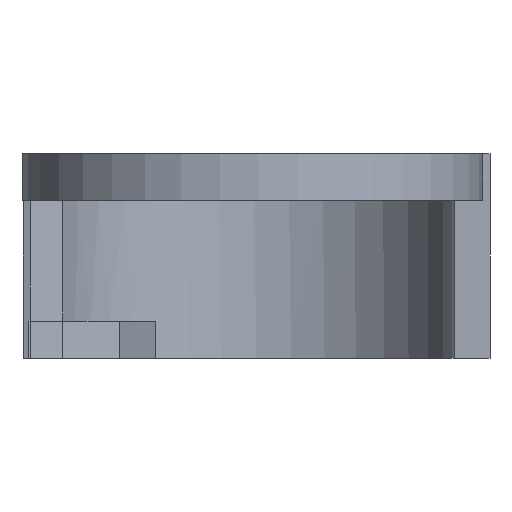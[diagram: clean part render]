
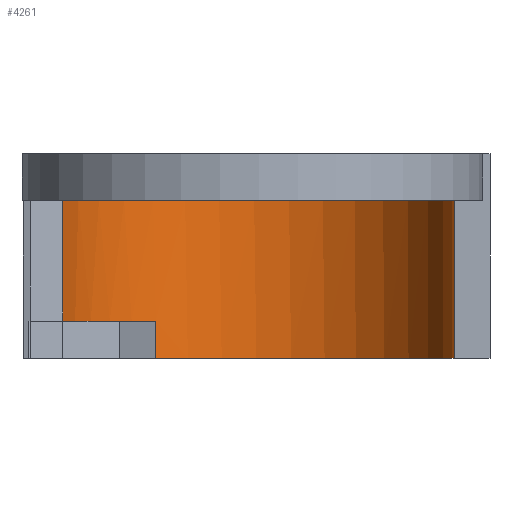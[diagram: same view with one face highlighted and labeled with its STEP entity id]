
A CAD part, front view. The second image highlights one B-rep face of the part: STEP entity #4261.
In plain terms, the highlighted cylindrical face has radius 5.45 mm (diameter 10.9 mm), a partial arc.
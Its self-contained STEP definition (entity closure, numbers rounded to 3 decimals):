
#1710 = PLANE('',#1711);
#1711 = AXIS2_PLACEMENT_3D('',#1712,#1713,#1714);
#1712 = CARTESIAN_POINT('',(0.,0.,-4.5));
#1713 = DIRECTION('',(0.,-1.,0.));
#1714 = DIRECTION('',(1.,0.,0.));
#1739 = PLANE('',#1740);
#1740 = AXIS2_PLACEMENT_3D('',#1741,#1742,#1743);
#1741 = CARTESIAN_POINT('',(0.,0.,-4.5));
#1742 = DIRECTION('',(0.,0.,1.));
#1743 = DIRECTION('',(1.,0.,0.));
#2202 = PLANE('',#2203);
#2203 = AXIS2_PLACEMENT_3D('',#2204,#2205,#2206);
#2204 = CARTESIAN_POINT('',(-7.571,1.268,-5.));
#2205 = DIRECTION('',(-0.267,0.964,0.));
#2206 = DIRECTION('',(0.,0.,1.));
#3151 = VERTEX_POINT('',#3152);
#3152 = CARTESIAN_POINT('',(5.45,0.,-4.5));
#3198 = VERTEX_POINT('',#3199);
#3199 = CARTESIAN_POINT('',(-2.588,4.797,-4.5));
#3220 = EDGE_CURVE('',#3151,#3198,#3221,.T.);
#3221 = SURFACE_CURVE('',#3222,(#3227,#3234),.PCURVE_S1.);
#3222 = CIRCLE('',#3223,5.45);
#3223 = AXIS2_PLACEMENT_3D('',#3224,#3225,#3226);
#3224 = CARTESIAN_POINT('',(0.,0.,-4.5));
#3225 = DIRECTION('',(0.,0.,1.));
#3226 = DIRECTION('',(1.,0.,0.));
#3227 = PCURVE('',#1739,#3228);
#3228 = DEFINITIONAL_REPRESENTATION('',(#3229),#3233);
#3229 = CIRCLE('',#3230,5.45);
#3230 = AXIS2_PLACEMENT_2D('',#3231,#3232);
#3231 = CARTESIAN_POINT('',(0.,0.));
#3232 = DIRECTION('',(1.,0.));
#3233 = ( GEOMETRIC_REPRESENTATION_CONTEXT(2) 
PARAMETRIC_REPRESENTATION_CONTEXT() REPRESENTATION_CONTEXT('2D SPACE',''
  ) );
#3234 = PCURVE('',#3235,#3240);
#3235 = CYLINDRICAL_SURFACE('',#3236,5.45);
#3236 = AXIS2_PLACEMENT_3D('',#3237,#3238,#3239);
#3237 = CARTESIAN_POINT('',(0.,0.,-5.));
#3238 = DIRECTION('',(0.,0.,1.));
#3239 = DIRECTION('',(1.,0.,0.));
#3240 = DEFINITIONAL_REPRESENTATION('',(#3241),#3245);
#3241 = LINE('',#3242,#3243);
#3242 = CARTESIAN_POINT('',(0.,0.5));
#3243 = VECTOR('',#3244,1.);
#3244 = DIRECTION('',(1.,0.));
#3245 = ( GEOMETRIC_REPRESENTATION_CONTEXT(2) 
PARAMETRIC_REPRESENTATION_CONTEXT() REPRESENTATION_CONTEXT('2D SPACE',''
  ) );
#3250 = EDGE_CURVE('',#3151,#3251,#3253,.T.);
#3251 = VERTEX_POINT('',#3252);
#3252 = CARTESIAN_POINT('',(5.45,0.,-0.25));
#3253 = SURFACE_CURVE('',#3254,(#3258,#3265),.PCURVE_S1.);
#3254 = LINE('',#3255,#3256);
#3255 = CARTESIAN_POINT('',(5.45,0.,-5.));
#3256 = VECTOR('',#3257,1.);
#3257 = DIRECTION('',(0.,0.,1.));
#3258 = PCURVE('',#1710,#3259);
#3259 = DEFINITIONAL_REPRESENTATION('',(#3260),#3264);
#3260 = LINE('',#3261,#3262);
#3261 = CARTESIAN_POINT('',(5.45,-0.5));
#3262 = VECTOR('',#3263,1.);
#3263 = DIRECTION('',(0.,1.));
#3264 = ( GEOMETRIC_REPRESENTATION_CONTEXT(2) 
PARAMETRIC_REPRESENTATION_CONTEXT() REPRESENTATION_CONTEXT('2D SPACE',''
  ) );
#3265 = PCURVE('',#3235,#3266);
#3266 = DEFINITIONAL_REPRESENTATION('',(#3267),#3271);
#3267 = LINE('',#3268,#3269);
#3268 = CARTESIAN_POINT('',(0.,-0.));
#3269 = VECTOR('',#3270,1.);
#3270 = DIRECTION('',(0.,1.));
#3271 = ( GEOMETRIC_REPRESENTATION_CONTEXT(2) 
PARAMETRIC_REPRESENTATION_CONTEXT() REPRESENTATION_CONTEXT('2D SPACE',''
  ) );
#3317 = PLANE('',#3318);
#3318 = AXIS2_PLACEMENT_3D('',#3319,#3320,#3321);
#3319 = CARTESIAN_POINT('',(0.,0.,-0.25));
#3320 = DIRECTION('',(0.,0.,1.));
#3321 = DIRECTION('',(1.,0.,0.));
#3614 = VERTEX_POINT('',#3615);
#3615 = CARTESIAN_POINT('',(-5.087,1.957,-0.25));
#3634 = EDGE_CURVE('',#3635,#3614,#3637,.T.);
#3635 = VERTEX_POINT('',#3636);
#3636 = CARTESIAN_POINT('',(-5.087,1.957,-3.5));
#3637 = SURFACE_CURVE('',#3638,(#3642,#3648),.PCURVE_S1.);
#3638 = LINE('',#3639,#3640);
#3639 = CARTESIAN_POINT('',(-5.087,1.957,-5.));
#3640 = VECTOR('',#3641,1.);
#3641 = DIRECTION('',(0.,0.,1.));
#3642 = PCURVE('',#2202,#3643);
#3643 = DEFINITIONAL_REPRESENTATION('',(#3644),#3647);
#3644 = B_SPLINE_CURVE_WITH_KNOTS('',1,(#3645,#3646),.UNSPECIFIED.,.F.,
  .F.,(2,2),(0.5,6.),.PIECEWISE_BEZIER_KNOTS.);
#3645 = CARTESIAN_POINT('',(0.5,2.578));
#3646 = CARTESIAN_POINT('',(6.,2.578));
#3647 = ( GEOMETRIC_REPRESENTATION_CONTEXT(2) 
PARAMETRIC_REPRESENTATION_CONTEXT() REPRESENTATION_CONTEXT('2D SPACE',''
  ) );
#3648 = PCURVE('',#3235,#3649);
#3649 = DEFINITIONAL_REPRESENTATION('',(#3650),#3653);
#3650 = B_SPLINE_CURVE_WITH_KNOTS('',1,(#3651,#3652),.UNSPECIFIED.,.F.,
  .F.,(2,2),(0.5,6.),.PIECEWISE_BEZIER_KNOTS.);
#3651 = CARTESIAN_POINT('',(2.774,0.5));
#3652 = CARTESIAN_POINT('',(2.774,6.));
#3653 = ( GEOMETRIC_REPRESENTATION_CONTEXT(2) 
PARAMETRIC_REPRESENTATION_CONTEXT() REPRESENTATION_CONTEXT('2D SPACE',''
  ) );
#4261 = ADVANCED_FACE('',(#4262),#3235,.F.);
#4262 = FACE_BOUND('',#4263,.F.);
#4263 = EDGE_LOOP('',(#4264,#4286,#4287,#4288,#4314,#4341));
#4264 = ORIENTED_EDGE('',*,*,#4265,.F.);
#4265 = EDGE_CURVE('',#3251,#3614,#4266,.T.);
#4266 = SURFACE_CURVE('',#4267,(#4272,#4279),.PCURVE_S1.);
#4267 = CIRCLE('',#4268,5.45);
#4268 = AXIS2_PLACEMENT_3D('',#4269,#4270,#4271);
#4269 = CARTESIAN_POINT('',(0.,0.,-0.25));
#4270 = DIRECTION('',(0.,0.,1.));
#4271 = DIRECTION('',(1.,0.,-0.));
#4272 = PCURVE('',#3235,#4273);
#4273 = DEFINITIONAL_REPRESENTATION('',(#4274),#4278);
#4274 = LINE('',#4275,#4276);
#4275 = CARTESIAN_POINT('',(0.,4.75));
#4276 = VECTOR('',#4277,1.);
#4277 = DIRECTION('',(1.,0.));
#4278 = ( GEOMETRIC_REPRESENTATION_CONTEXT(2) 
PARAMETRIC_REPRESENTATION_CONTEXT() REPRESENTATION_CONTEXT('2D SPACE',''
  ) );
#4279 = PCURVE('',#3317,#4280);
#4280 = DEFINITIONAL_REPRESENTATION('',(#4281),#4285);
#4281 = CIRCLE('',#4282,5.45);
#4282 = AXIS2_PLACEMENT_2D('',#4283,#4284);
#4283 = CARTESIAN_POINT('',(0.,0.));
#4284 = DIRECTION('',(1.,0.));
#4285 = ( GEOMETRIC_REPRESENTATION_CONTEXT(2) 
PARAMETRIC_REPRESENTATION_CONTEXT() REPRESENTATION_CONTEXT('2D SPACE',''
  ) );
#4286 = ORIENTED_EDGE('',*,*,#3250,.F.);
#4287 = ORIENTED_EDGE('',*,*,#3220,.T.);
#4288 = ORIENTED_EDGE('',*,*,#4289,.T.);
#4289 = EDGE_CURVE('',#3198,#4290,#4292,.T.);
#4290 = VERTEX_POINT('',#4291);
#4291 = CARTESIAN_POINT('',(-2.588,4.797,-3.5));
#4292 = SURFACE_CURVE('',#4293,(#4297,#4303),.PCURVE_S1.);
#4293 = LINE('',#4294,#4295);
#4294 = CARTESIAN_POINT('',(-2.588,4.797,-5.));
#4295 = VECTOR('',#4296,1.);
#4296 = DIRECTION('',(0.,0.,1.));
#4297 = PCURVE('',#3235,#4298);
#4298 = DEFINITIONAL_REPRESENTATION('',(#4299),#4302);
#4299 = B_SPLINE_CURVE_WITH_KNOTS('',1,(#4300,#4301),.UNSPECIFIED.,.F.,
  .F.,(2,2),(0.5,1.6),.PIECEWISE_BEZIER_KNOTS.);
#4300 = CARTESIAN_POINT('',(2.066,0.5));
#4301 = CARTESIAN_POINT('',(2.066,1.6));
#4302 = ( GEOMETRIC_REPRESENTATION_CONTEXT(2) 
PARAMETRIC_REPRESENTATION_CONTEXT() REPRESENTATION_CONTEXT('2D SPACE',''
  ) );
#4303 = PCURVE('',#4304,#4309);
#4304 = PLANE('',#4305);
#4305 = AXIS2_PLACEMENT_3D('',#4306,#4307,#4308);
#4306 = CARTESIAN_POINT('',(-4.184,0.891,-4.5));
#4307 = DIRECTION('',(0.926,-0.378,0.));
#4308 = DIRECTION('',(0.,0.,1.));
#4309 = DEFINITIONAL_REPRESENTATION('',(#4310),#4313);
#4310 = B_SPLINE_CURVE_WITH_KNOTS('',1,(#4311,#4312),.UNSPECIFIED.,.F.,
  .F.,(2,2),(0.5,1.6),.PIECEWISE_BEZIER_KNOTS.);
#4311 = CARTESIAN_POINT('',(0.,-4.22));
#4312 = CARTESIAN_POINT('',(1.1,-4.22));
#4313 = ( GEOMETRIC_REPRESENTATION_CONTEXT(2) 
PARAMETRIC_REPRESENTATION_CONTEXT() REPRESENTATION_CONTEXT('2D SPACE',''
  ) );
#4314 = ORIENTED_EDGE('',*,*,#4315,.T.);
#4315 = EDGE_CURVE('',#4290,#3635,#4316,.T.);
#4316 = SURFACE_CURVE('',#4317,(#4322,#4329),.PCURVE_S1.);
#4317 = CIRCLE('',#4318,5.45);
#4318 = AXIS2_PLACEMENT_3D('',#4319,#4320,#4321);
#4319 = CARTESIAN_POINT('',(0.,0.,-3.5));
#4320 = DIRECTION('',(0.,0.,1.));
#4321 = DIRECTION('',(1.,0.,-0.));
#4322 = PCURVE('',#3235,#4323);
#4323 = DEFINITIONAL_REPRESENTATION('',(#4324),#4328);
#4324 = LINE('',#4325,#4326);
#4325 = CARTESIAN_POINT('',(0.,1.5));
#4326 = VECTOR('',#4327,1.);
#4327 = DIRECTION('',(1.,0.));
#4328 = ( GEOMETRIC_REPRESENTATION_CONTEXT(2) 
PARAMETRIC_REPRESENTATION_CONTEXT() REPRESENTATION_CONTEXT('2D SPACE',''
  ) );
#4329 = PCURVE('',#4330,#4335);
#4330 = PLANE('',#4331);
#4331 = AXIS2_PLACEMENT_3D('',#4332,#4333,#4334);
#4332 = CARTESIAN_POINT('',(-6.036,1.647,-3.5));
#4333 = DIRECTION('',(0.,0.,1.));
#4334 = DIRECTION('',(0.926,-0.378,0.));
#4335 = DEFINITIONAL_REPRESENTATION('',(#4336),#4340);
#4336 = CIRCLE('',#4337,5.45);
#4337 = AXIS2_PLACEMENT_2D('',#4338,#4339);
#4338 = CARTESIAN_POINT('',(6.21,0.759));
#4339 = DIRECTION('',(0.926,0.378));
#4340 = ( GEOMETRIC_REPRESENTATION_CONTEXT(2) 
PARAMETRIC_REPRESENTATION_CONTEXT() REPRESENTATION_CONTEXT('2D SPACE',''
  ) );
#4341 = ORIENTED_EDGE('',*,*,#3634,.T.);
